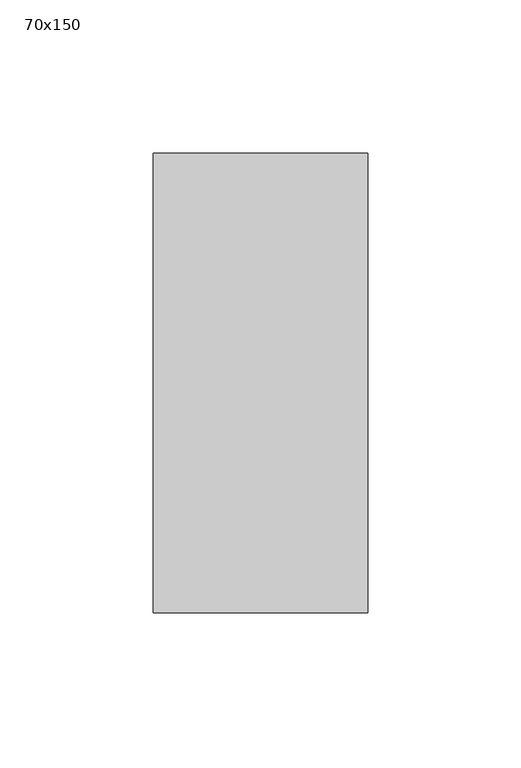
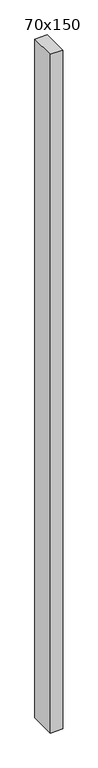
"""IFC4 building model written with IfcOpenShell, lengths in millimetres: member geometry, 長方形のマリオン : 70x150."""

from ifc_helpers import new_model, si_unit, frame, origin, place, context, project, spatial, polyline, outline, extrude, source, transform, mapped, element, save


def member_70x150_27deb047(model_context):
    return source(origin(), model_context, "Body", "SweptSolid", [
        extrude(outline(polyline([(35.0, 75.0), (35.0, -75.0), (-35.0, -75.0), (-35.0, 75.0), (35.0, 75.0)])), frame((0.0, 0.0, -4000.0), z_axis=(0.0, 0.0, 1.0), x_axis=(1.0, 0.0, 0.0)), (0.0, 0.0, 1.0), 4000.0),
    ])


if __name__ == "__main__":
    model = new_model("IFC4")
    model_context = context("Model", 3, world=origin())
    ifc_project = project(units=[si_unit("LENGTHUNIT", "METRE", prefix="MILLI")], contexts=[model_context])
    site = spatial("IfcSite", under=ifc_project)
    building = spatial("IfcBuilding", under=site)
    placement = place(None, origin())
    member_70x150_shape = member_70x150_27deb047(model_context)
    element("IfcMember", 1, ObjectType="長方形のマリオン : 70x150", at=placement, inside=building, context=model_context, shape_type="MappedRepresentation", body=[
        mapped(member_70x150_shape, transform((0.0, 0.0, 0.0), x_axis=(1.0, 0.0, 0.0), y_axis=(0.0, 1.0, 0.0), z_axis=(0.0, 0.0, 1.0))),
    ])
    save(model, "model.ifc")
